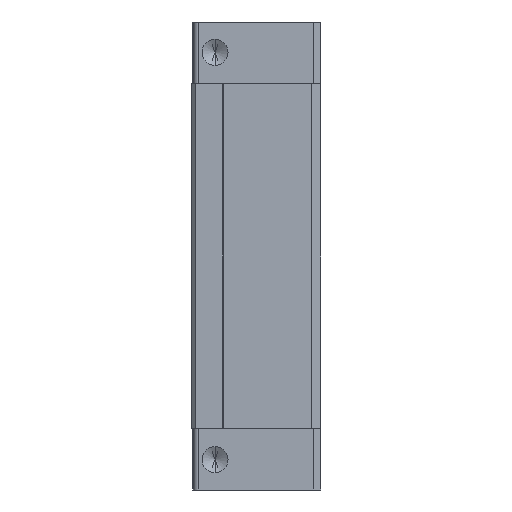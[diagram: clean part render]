
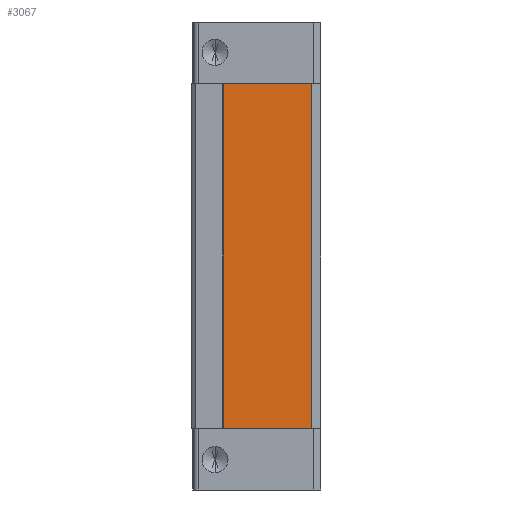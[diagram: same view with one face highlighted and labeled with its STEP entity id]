
A CAD part, left-side view. The second image highlights one B-rep face of the part: STEP entity #3067.
In plain terms, the highlighted planar face has unit normal (-1, 0, 0).
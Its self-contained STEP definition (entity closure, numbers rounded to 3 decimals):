
#71=DIRECTION('',(0.,1.,0.));
#72=VECTOR('',#71,20.2);
#73=CARTESIAN_POINT('',(-23.7,-27.7,-39.75));
#74=LINE('334',#73,#72);
#471=DIRECTION('',(0.,1.,0.));
#472=VECTOR('',#471,20.2);
#473=CARTESIAN_POINT('',(-23.7,-27.7,39.75));
#474=LINE('336',#473,#472);
#859=DIRECTION('',(0.,0.,1.));
#860=VECTOR('',#859,79.5);
#861=CARTESIAN_POINT('',(-23.7,-27.7,-39.75));
#862=LINE('339',#861,#860);
#863=DIRECTION('',(0.,0.,-1.));
#864=VECTOR('',#863,79.5);
#865=CARTESIAN_POINT('',(-23.7,-7.5,39.75));
#866=LINE('344',#865,#864);
#1315=CARTESIAN_POINT('',(-23.7,-27.7,-39.75));
#1316=CARTESIAN_POINT('',(-23.7,-7.5,-39.75));
#1317=VERTEX_POINT('',#1315);
#1318=VERTEX_POINT('',#1316);
#1321=CARTESIAN_POINT('',(-23.7,-27.7,39.75));
#1322=CARTESIAN_POINT('',(-23.7,-7.5,39.75));
#1323=VERTEX_POINT('',#1321);
#1324=VERTEX_POINT('',#1322);
#3055=CARTESIAN_POINT('',(-23.7,-27.7,47.7));
#3056=DIRECTION('',(1.,0.,0.));
#3057=DIRECTION('',(0.,1.,0.));
#3058=AXIS2_PLACEMENT_3D('',#3055,#3056,#3057);
#3059=PLANE('326',#3058);
#3060=ORIENTED_EDGE('334',*,*,#1714,.T.);
#3062=ORIENTED_EDGE('344',*,*,#3061,.F.);
#3063=ORIENTED_EDGE('336',*,*,#2389,.F.);
#3064=ORIENTED_EDGE('339',*,*,#3047,.F.);
#3065=EDGE_LOOP('326',(#3060,#3062,#3063,#3064));
#3066=FACE_OUTER_BOUND('326',#3065,.F.);
#3067=ADVANCED_FACE('326',(#3066),#3059,.F.);
#1714=EDGE_CURVE('334',#1317,#1318,#74,.T.);
#2389=EDGE_CURVE('336',#1323,#1324,#474,.T.);
#3047=EDGE_CURVE('339',#1317,#1323,#862,.T.);
#3061=EDGE_CURVE('344',#1324,#1318,#866,.T.);
